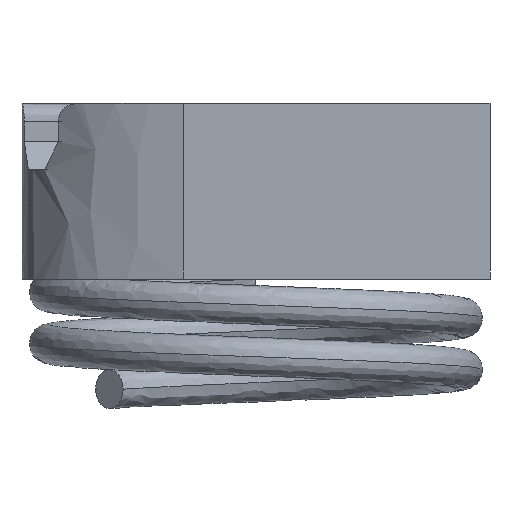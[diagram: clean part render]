
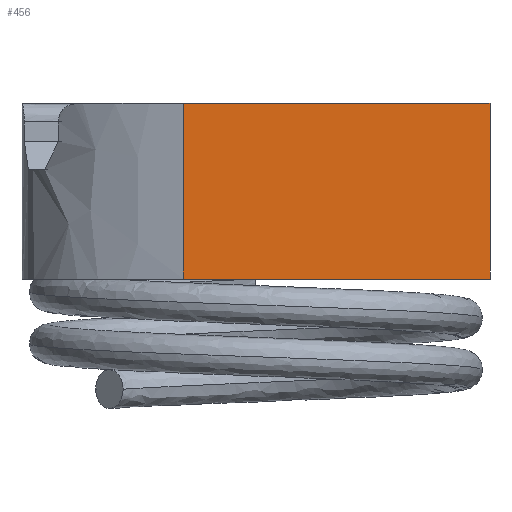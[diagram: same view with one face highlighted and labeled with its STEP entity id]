
A CAD part, left-side view. The second image highlights one B-rep face of the part: STEP entity #456.
In plain terms, the highlighted planar face has unit normal (-1, 0, 0).
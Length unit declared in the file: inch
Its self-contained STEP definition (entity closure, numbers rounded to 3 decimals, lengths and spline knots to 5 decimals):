
#212=EDGE_CURVE('',#521,#553,#554,.T.);
#336=EDGE_CURVE('',#510,#505,#733,.T.);
#350=EDGE_CURVE('',#553,#510,#750,.T.);
#386=EDGE_CURVE('',#521,#505,#795,.T.);
#456=ADVANCED_FACE('',(#877),#878,.T.);
#505=VERTEX_POINT('',#927);
#510=VERTEX_POINT('',#936);
#521=VERTEX_POINT('',#959);
#553=VERTEX_POINT('',#1020);
#554=LINE('',#1021,#1022);
#733=B_SPLINE_CURVE_WITH_KNOTS('',3,(#2124,#2125,#2126,#2127),.UNSPECIFIED.,.F.,.F.,(4,4),(0.0,0.47522),.UNSPECIFIED.);
#750=LINE('',#2165,#2166);
#795=LINE('',#2310,#2311);
#877=FACE_OUTER_BOUND('',#2668,.T.);
#878=PLANE('',#2669);
#927=CARTESIAN_POINT('',(0.0,0.65502,0.09025));
#936=CARTESIAN_POINT('',(0.0,0.65502,0.46547));
#959=CARTESIAN_POINT('',(0.0,0.,0.09025));
#1020=CARTESIAN_POINT('',(0.0,0.,0.46547));
#1021=CARTESIAN_POINT('',(0.0,0.,0.09025));
#1022=VECTOR('',#3361,1.0);
#2124=CARTESIAN_POINT('',(0.,0.65502,0.51547));
#2125=CARTESIAN_POINT('',(0.,0.65502,0.35706));
#2126=CARTESIAN_POINT('',(0.,0.65502,0.19866));
#2127=CARTESIAN_POINT('',(0.,0.65502,0.04025));
#2165=CARTESIAN_POINT('',(0.0,0.,0.46547));
#2166=VECTOR('',#3571,1.0);
#2310=CARTESIAN_POINT('',(0.0,0.,0.09025));
#2311=VECTOR('',#3614,1.0);
#2668=EDGE_LOOP('',(#3723,#3724,#3725,#3726));
#2669=AXIS2_PLACEMENT_3D('',#3727,#3728,#3729);
#3361=DIRECTION('',(0.0,0.0,1.0));
#3571=DIRECTION('',(0.0,1.0,0.0));
#3614=DIRECTION('',(0.0,1.0,0.0));
#3723=ORIENTED_EDGE('',*,*,#336,.T.);
#3724=ORIENTED_EDGE('',*,*,#386,.F.);
#3725=ORIENTED_EDGE('',*,*,#212,.T.);
#3726=ORIENTED_EDGE('',*,*,#350,.T.);
#3727=CARTESIAN_POINT('',(0.0,0.,0.27786));
#3728=DIRECTION('',(-1.0,0.0,0.0));
#3729=DIRECTION('',(0.0,0.0,1.0));
